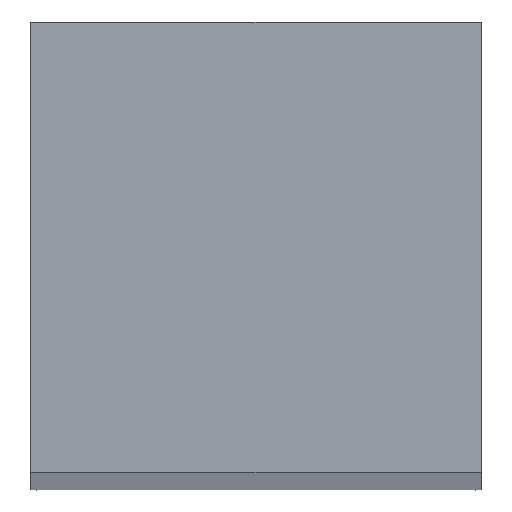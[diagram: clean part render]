
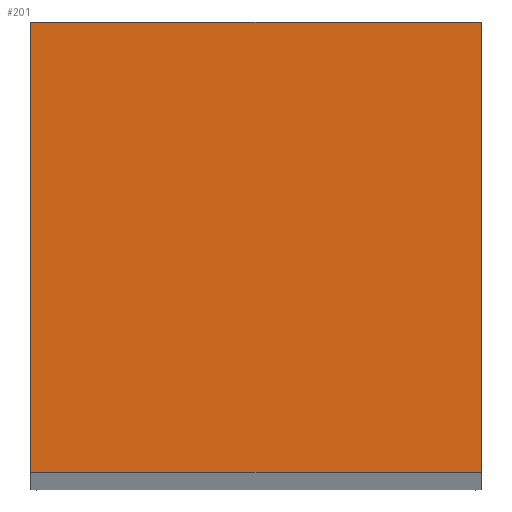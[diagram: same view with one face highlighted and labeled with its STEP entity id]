
A CAD part, top view. The second image highlights one B-rep face of the part: STEP entity #201.
In plain terms, the highlighted planar face has unit normal (0, 0, 1).
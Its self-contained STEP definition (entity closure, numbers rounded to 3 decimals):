
#1 = FACE_OUTER_BOUND ( 'NONE', #879, .T. ) ;
#33 = AXIS2_PLACEMENT_3D ( 'NONE', #1030, #1025, #1032 ) ;
#201 = ADVANCED_FACE ( 'NONE', ( #1 ), #1012, .F. ) ;
#227 = VECTOR ( 'NONE', #746, 1000. ) ;
#255 = LINE ( 'NONE', #544, #258 ) ;
#258 = VECTOR ( 'NONE', #827, 1000. ) ;
#384 = EDGE_CURVE ( 'NONE', #1193, #1125, #255, .T. ) ;
#450 = EDGE_CURVE ( 'NONE', #1121, #1155, #1006, .T. ) ;
#468 = EDGE_CURVE ( 'NONE', #1155, #1193, #802, .T. ) ;
#470 = EDGE_CURVE ( 'NONE', #1125, #1121, #795, .T. ) ;
#544 = CARTESIAN_POINT ( 'NONE',  ( 5.125, -5.125, 260. ) ) ;
#559 = CARTESIAN_POINT ( 'NONE',  ( -5.125, 5.125, 260. ) ) ;
#591 = CARTESIAN_POINT ( 'NONE',  ( -5.125, 5.125, 260. ) ) ;
#594 = DIRECTION ( 'NONE',  ( 1., 0., 0. ) ) ;
#598 = CARTESIAN_POINT ( 'NONE',  ( -5.125, -5.125, 260. ) ) ;
#600 = DIRECTION ( 'NONE',  ( -1., 0., 0. ) ) ;
#671 = ORIENTED_EDGE ( 'NONE', *, *, #468, .T. ) ;
#674 = ORIENTED_EDGE ( 'NONE', *, *, #450, .T. ) ;
#677 = ORIENTED_EDGE ( 'NONE', *, *, #470, .T. ) ;
#679 = ORIENTED_EDGE ( 'NONE', *, *, #384, .T. ) ;
#718 = CARTESIAN_POINT ( 'NONE',  ( -5.125, -5.125, 260. ) ) ;
#746 = DIRECTION ( 'NONE',  ( 0., -1., 0. ) ) ;
#753 = CARTESIAN_POINT ( 'NONE',  ( -5.125, -5.125, 260. ) ) ;
#760 = CARTESIAN_POINT ( 'NONE',  ( 5.125, 5.125, 260. ) ) ;
#795 = LINE ( 'NONE', #591, #805 ) ;
#802 = LINE ( 'NONE', #598, #803 ) ;
#803 = VECTOR ( 'NONE', #594, 1000. ) ;
#805 = VECTOR ( 'NONE', #600, 1000. ) ;
#827 = DIRECTION ( 'NONE',  ( 0., 1., 0. ) ) ;
#879 = EDGE_LOOP ( 'NONE', ( #674, #671, #679, #677 ) ) ;
#926 = CARTESIAN_POINT ( 'NONE',  ( 5.125, -5.125, 260. ) ) ;
#1006 = LINE ( 'NONE', #753, #227 ) ;
#1012 = PLANE ( 'NONE',  #33 ) ;
#1025 = DIRECTION ( 'NONE',  ( 0., 0., -1. ) ) ;
#1030 = CARTESIAN_POINT ( 'NONE',  ( -5.125, 5.125, 260. ) ) ;
#1032 = DIRECTION ( 'NONE',  ( -1., 0., 0. ) ) ;
#1121 = VERTEX_POINT ( 'NONE', #559 ) ;
#1125 = VERTEX_POINT ( 'NONE', #760 ) ;
#1155 = VERTEX_POINT ( 'NONE', #718 ) ;
#1193 = VERTEX_POINT ( 'NONE', #926 ) ;
